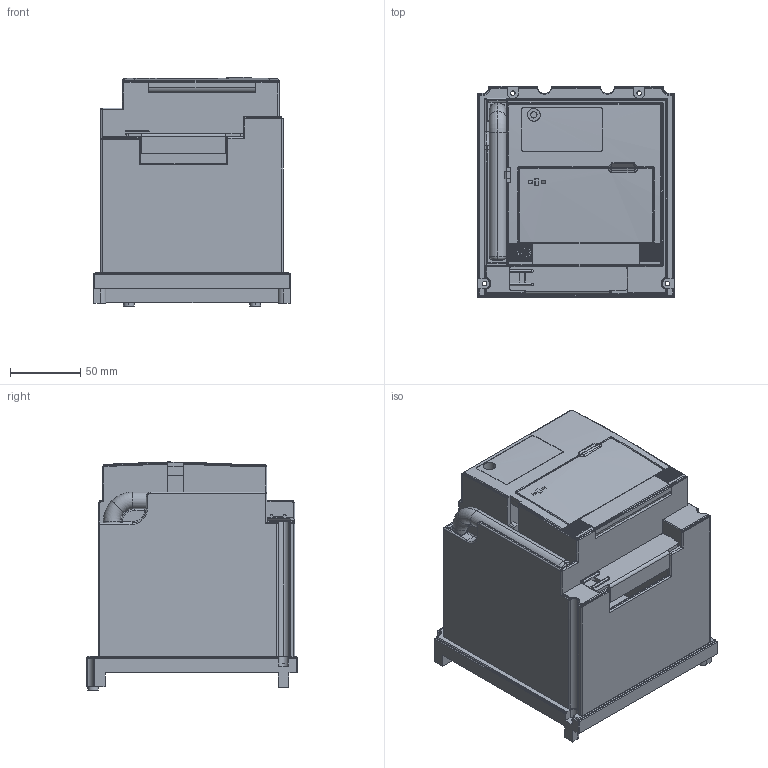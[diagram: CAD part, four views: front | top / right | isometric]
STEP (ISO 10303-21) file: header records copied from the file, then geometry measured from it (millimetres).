
FILE_DESCRIPTION (( 'STEP AP214' ), '1' );
FILE_NAME ('400.STEP', '2025-11-24T07:32:54', ( '' ), ( '' ), 'SwSTEP 2.0', 'SolidWorks 2024', '' );
FILE_SCHEMA (( 'AUTOMOTIVE_DESIGN' ));
Length unit declared in the file: millimetre
Products named in the file (2): 400; 400 2电操
Assembly tree (1 placements, depth 2):
  400
    400 2电操
Bounding box: 140 x 150.3 x 163.55 mm (x, y, z)
Volume: 481079.9 mm3; surface area: 309701.1 mm2
Topology: 11 solids, 11 shells, 1411 faces, 3718 edges, 2276 vertices
Faces by surface type: plane 685, cylinder 502, torus 92, sphere 58, bspline 58, cone 16
Entity records: 48951 total; most frequent: CARTESIAN_POINT 13958, ORIENTED_EDGE 7336, DIRECTION 7325, EDGE_CURVE 3668, AXIS2_PLACEMENT_3D 2550, VERTEX_POINT 2271, VECTOR 2225, LINE 2225
